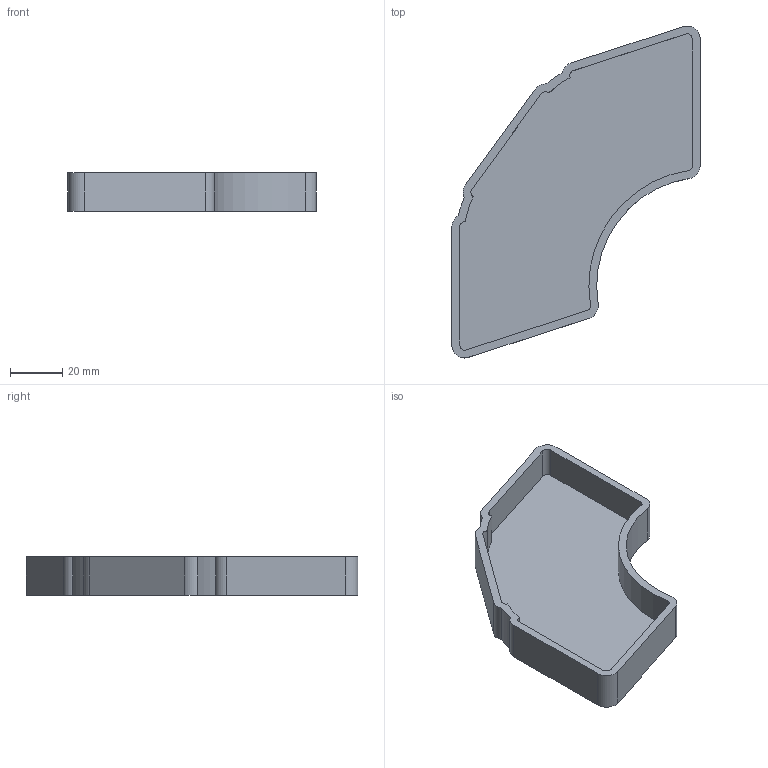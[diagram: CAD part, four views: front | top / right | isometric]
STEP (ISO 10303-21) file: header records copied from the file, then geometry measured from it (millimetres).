
FILE_DESCRIPTION(/* description */ (''),/* implementation_level */ '2;1');
FILE_NAME(/* name */ 'modulo triplo.step',/* time_stamp */ '2024-01-18T10:02:56+01:00',/* author */ (''),/* organization */ (''),/* preprocessor_version */ 'ST-DEVELOPER v20',/* originating_system */ 'Autodesk Translation Framework v12.14.0.127',/* authorisation */ '');
FILE_SCHEMA (('AUTOMOTIVE_DESIGN { 1 0 10303 214 3 1 1 }'));
Length unit declared in the file: millimetre
Products named in the file (1): base desk asimmetrica
Bounding box: 95.04 x 127.08 x 14.85 mm (x, y, z)
Volume: 34379 mm3; surface area: 24026.2 mm2
Topology: 1 solids, 1 shells, 35 faces, 96 edges, 64 vertices
Faces by surface type: cylinder 22, plane 13
Entity records: 1174 total; most frequent: DIRECTION 212, CARTESIAN_POINT 196, ORIENTED_EDGE 192, EDGE_CURVE 96, AXIS2_PLACEMENT_3D 80, VERTEX_POINT 64, LINE 52, VECTOR 52
